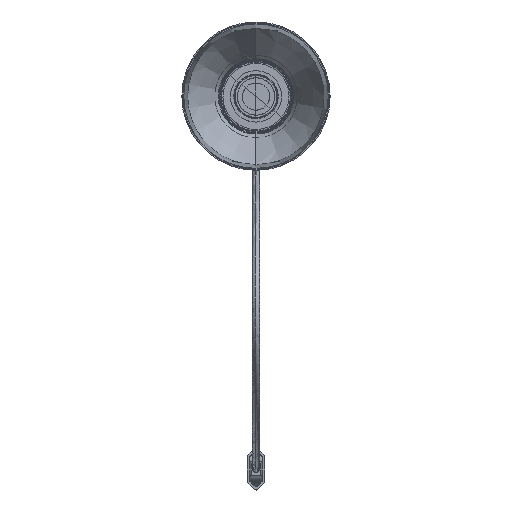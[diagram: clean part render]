
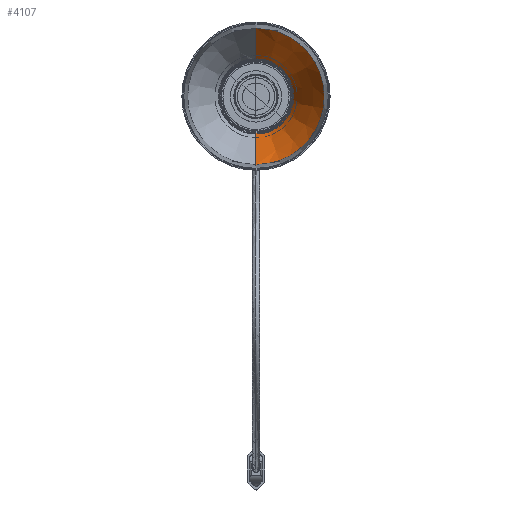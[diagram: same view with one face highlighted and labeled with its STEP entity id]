
A CAD part, top view. The second image highlights one B-rep face of the part: STEP entity #4107.
In plain terms, the highlighted conical face has half-angle 30 degrees and reference radius 52.701 mm.
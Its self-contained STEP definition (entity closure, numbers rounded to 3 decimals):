
#50=CONICAL_SURFACE('',#4544,52.701,0.524);
#266=CIRCLE('',#4545,55.306);
#558=LINE('',#9062,#820);
#559=LINE('',#9065,#821);
#820=VECTOR('',#5624,304.8);
#821=VECTOR('',#5627,304.8);
#1260=FACE_OUTER_BOUND('',#1521,.T.);
#1521=EDGE_LOOP('',(#3685,#3686,#3687,#3688));
#1664=B_SPLINE_CURVE_WITH_KNOTS('',3,(#9042,#9043,#9044,#9045,#9046,#9047,
#9048,#9049),.UNSPECIFIED.,.F.,.F.,(4,1,1,1,1,4),(0.,0.2,0.4,0.6,0.8,1.),
 .UNSPECIFIED.);
#2012=VERTEX_POINT('',#9039);
#2013=VERTEX_POINT('',#9041);
#2014=VERTEX_POINT('',#9061);
#2015=VERTEX_POINT('',#9063);
#2581=EDGE_CURVE('',#2013,#2012,#1664,.T.);
#2584=EDGE_CURVE('',#2014,#2012,#558,.T.);
#2585=EDGE_CURVE('',#2015,#2014,#266,.T.);
#2586=EDGE_CURVE('',#2013,#2015,#559,.T.);
#3685=ORIENTED_EDGE('',*,*,#2584,.F.);
#3686=ORIENTED_EDGE('',*,*,#2585,.F.);
#3687=ORIENTED_EDGE('',*,*,#2586,.F.);
#3688=ORIENTED_EDGE('',*,*,#2581,.T.);
#4107=ADVANCED_FACE('',(#1260),#50,.F.);
#4544=AXIS2_PLACEMENT_3D('',#9060,#5622,#5623);
#4545=AXIS2_PLACEMENT_3D('',#9064,#5625,#5626);
#5622=DIRECTION('center_axis',(0.,0.,
1.));
#5623=DIRECTION('ref_axis',(1.,0.,0.));
#5624=DIRECTION('',(0.,0.5,-0.866));
#5625=DIRECTION('center_axis',(0.,0.,
-1.));
#5626=DIRECTION('ref_axis',(-0.588,-0.809,0.));
#5627=DIRECTION('',(0.,0.5,0.866));
#9039=CARTESIAN_POINT('',(0.,-29.258,-4.225));
#9041=CARTESIAN_POINT('',(0.,29.258,-4.225));
#9042=CARTESIAN_POINT('Ctrl Pts',(0.,29.258,
-4.225));
#9043=CARTESIAN_POINT('Ctrl Pts',(6.286,29.474,-4.225));
#9044=CARTESIAN_POINT('Ctrl Pts',(18.292,25.177,-4.225));
#9045=CARTESIAN_POINT('Ctrl Pts',(29.733,9.69,-4.225));
#9046=CARTESIAN_POINT('Ctrl Pts',(29.733,-9.69,-4.225));
#9047=CARTESIAN_POINT('Ctrl Pts',(18.292,-25.177,-4.225));
#9048=CARTESIAN_POINT('Ctrl Pts',(6.286,-29.474,-4.225));
#9049=CARTESIAN_POINT('Ctrl Pts',(0.,-29.258,
-4.225));
#9060=CARTESIAN_POINT('Origin',(0.,0.,
36.38));
#9061=CARTESIAN_POINT('',(0.,-55.306,40.892));
#9062=CARTESIAN_POINT('',(0.,-55.306,40.892));
#9063=CARTESIAN_POINT('',(0.,55.306,40.892));
#9064=CARTESIAN_POINT('Origin',(0.,0.,
40.892));
#9065=CARTESIAN_POINT('',(0.,29.258,-4.225));
